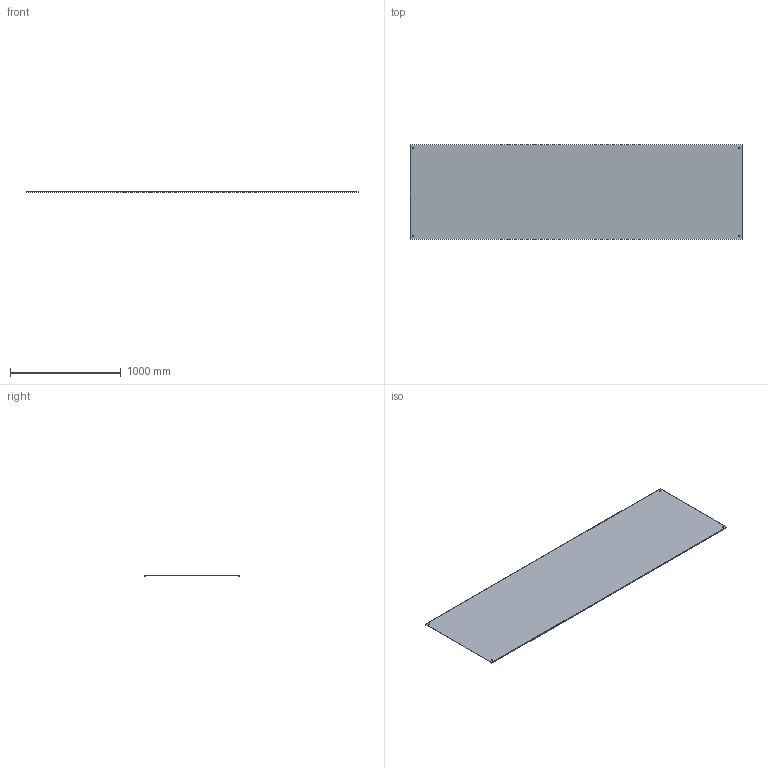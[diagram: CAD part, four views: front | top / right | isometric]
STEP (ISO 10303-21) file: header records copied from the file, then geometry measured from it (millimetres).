
FILE_DESCRIPTION(/* description */ ('','CAx-IF Rec.Pracs.---Representation and Presentation of Product Manufacturing Information (PMI)---4.0---2014-10-13'),/* implementation_level */ '2;1');
FILE_NAME(/* name */ 'Eurostrut_ECLSC-800_Straight Cover for Cable Ladder ECL.step',/* time_stamp */ '2026-09-08T14:27:46+02:00',/* author */ (''),/* organization */ (''),/* preprocessor_version */ 'ST-DEVELOPER v20.1',/* originating_system */ 'Autodesk Revit 2027 27.2.0.39',/* authorisation */ '');
FILE_SCHEMA (('AP242_MANAGED_MODEL_BASED_3D_ENGINEERING_MIM_LF { 1 0 10303 442 2 1 4 }'));
Length unit declared in the file: millimetre
Products named in the file (2): TopLevelAssembly; Extrusion
Assembly tree (1 placements, depth 2):
  TopLevelAssembly
    Extrusion
Bounding box: 3000 x 850 x 9 mm (x, y, z)
Volume: 3892028.8 mm3; surface area: 5201155.2 mm2
Topology: 1 solids, 1 shells, 18 faces, 48 edges, 32 vertices
Faces by surface type: plane 10, cylinder 8
Entity records: 618 total; most frequent: DIRECTION 106, CARTESIAN_POINT 101, ORIENTED_EDGE 96, EDGE_CURVE 48, AXIS2_PLACEMENT_3D 37, LINE 32, VECTOR 32, VERTEX_POINT 32
